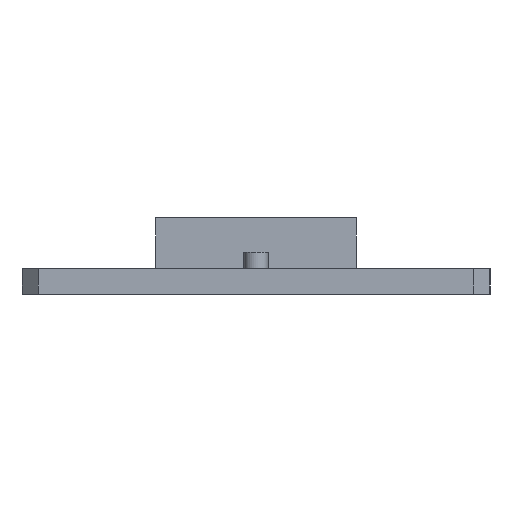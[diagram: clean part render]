
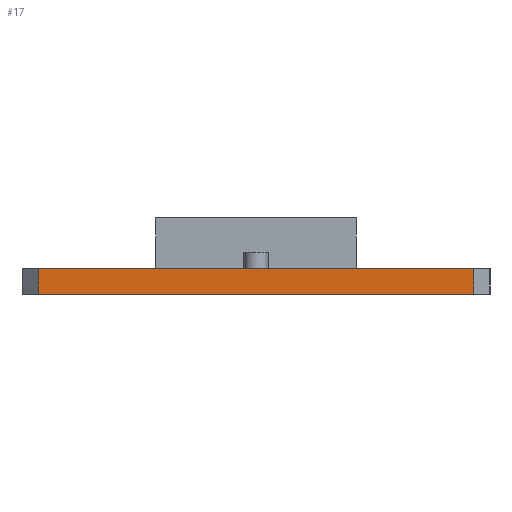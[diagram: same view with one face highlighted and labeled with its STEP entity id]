
A CAD part, left-side view. The second image highlights one B-rep face of the part: STEP entity #17.
In plain terms, the highlighted planar face has unit normal (-1, 0, 0).
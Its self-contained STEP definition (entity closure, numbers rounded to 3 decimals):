
#17 = ADVANCED_FACE('',(#18),#32,.F.);
#18 = FACE_BOUND('',#19,.F.);
#19 = EDGE_LOOP('',(#20,#55,#83,#111));
#20 = ORIENTED_EDGE('',*,*,#21,.F.);
#21 = EDGE_CURVE('',#22,#24,#26,.T.);
#22 = VERTEX_POINT('',#23);
#23 = CARTESIAN_POINT('',(-31.925,-13.525,1.6));
#24 = VERTEX_POINT('',#25);
#25 = CARTESIAN_POINT('',(-31.925,13.525,1.6));
#26 = SURFACE_CURVE('',#27,(#31,#43),.PCURVE_S1.);
#27 = LINE('',#28,#29);
#28 = CARTESIAN_POINT('',(-31.925,-14.525,1.6));
#29 = VECTOR('',#30,1.);
#30 = DIRECTION('',(-0.,1.,0.));
#31 = PCURVE('',#32,#37);
#32 = PLANE('',#33);
#33 = AXIS2_PLACEMENT_3D('',#34,#35,#36);
#34 = CARTESIAN_POINT('',(-31.925,-14.525,0.));
#35 = DIRECTION('',(1.,0.,-0.));
#36 = DIRECTION('',(0.,0.,1.));
#37 = DEFINITIONAL_REPRESENTATION('',(#38),#42);
#38 = LINE('',#39,#40);
#39 = CARTESIAN_POINT('',(1.6,0.));
#40 = VECTOR('',#41,1.);
#41 = DIRECTION('',(0.,-1.));
#42 = ( GEOMETRIC_REPRESENTATION_CONTEXT(2) 
PARAMETRIC_REPRESENTATION_CONTEXT() REPRESENTATION_CONTEXT('2D SPACE',''
  ) );
#43 = PCURVE('',#44,#49);
#44 = PLANE('',#45);
#45 = AXIS2_PLACEMENT_3D('',#46,#47,#48);
#46 = CARTESIAN_POINT('',(-31.925,-14.525,1.6));
#47 = DIRECTION('',(0.,0.,1.));
#48 = DIRECTION('',(1.,0.,-0.));
#49 = DEFINITIONAL_REPRESENTATION('',(#50),#54);
#50 = LINE('',#51,#52);
#51 = CARTESIAN_POINT('',(0.,0.));
#52 = VECTOR('',#53,1.);
#53 = DIRECTION('',(0.,1.));
#54 = ( GEOMETRIC_REPRESENTATION_CONTEXT(2) 
PARAMETRIC_REPRESENTATION_CONTEXT() REPRESENTATION_CONTEXT('2D SPACE',''
  ) );
#55 = ORIENTED_EDGE('',*,*,#56,.F.);
#56 = EDGE_CURVE('',#57,#22,#59,.T.);
#57 = VERTEX_POINT('',#58);
#58 = CARTESIAN_POINT('',(-31.925,-13.525,0.));
#59 = SURFACE_CURVE('',#60,(#64,#71),.PCURVE_S1.);
#60 = LINE('',#61,#62);
#61 = CARTESIAN_POINT('',(-31.925,-13.525,0.));
#62 = VECTOR('',#63,1.);
#63 = DIRECTION('',(0.,0.,1.));
#64 = PCURVE('',#32,#65);
#65 = DEFINITIONAL_REPRESENTATION('',(#66),#70);
#66 = LINE('',#67,#68);
#67 = CARTESIAN_POINT('',(0.,-1.));
#68 = VECTOR('',#69,1.);
#69 = DIRECTION('',(1.,0.));
#70 = ( GEOMETRIC_REPRESENTATION_CONTEXT(2) 
PARAMETRIC_REPRESENTATION_CONTEXT() REPRESENTATION_CONTEXT('2D SPACE',''
  ) );
#71 = PCURVE('',#72,#77);
#72 = PLANE('',#73);
#73 = AXIS2_PLACEMENT_3D('',#74,#75,#76);
#74 = CARTESIAN_POINT('',(-31.425,-14.025,0.));
#75 = DIRECTION('',(-0.707,-0.707,0.));
#76 = DIRECTION('',(-0.,-0.,-1.));
#77 = DEFINITIONAL_REPRESENTATION('',(#78),#82);
#78 = LINE('',#79,#80);
#79 = CARTESIAN_POINT('',(-0.,-0.707));
#80 = VECTOR('',#81,1.);
#81 = DIRECTION('',(-1.,0.));
#82 = ( GEOMETRIC_REPRESENTATION_CONTEXT(2) 
PARAMETRIC_REPRESENTATION_CONTEXT() REPRESENTATION_CONTEXT('2D SPACE',''
  ) );
#83 = ORIENTED_EDGE('',*,*,#84,.T.);
#84 = EDGE_CURVE('',#57,#85,#87,.T.);
#85 = VERTEX_POINT('',#86);
#86 = CARTESIAN_POINT('',(-31.925,13.525,0.));
#87 = SURFACE_CURVE('',#88,(#92,#99),.PCURVE_S1.);
#88 = LINE('',#89,#90);
#89 = CARTESIAN_POINT('',(-31.925,-14.525,0.));
#90 = VECTOR('',#91,1.);
#91 = DIRECTION('',(-0.,1.,0.));
#92 = PCURVE('',#32,#93);
#93 = DEFINITIONAL_REPRESENTATION('',(#94),#98);
#94 = LINE('',#95,#96);
#95 = CARTESIAN_POINT('',(0.,0.));
#96 = VECTOR('',#97,1.);
#97 = DIRECTION('',(0.,-1.));
#98 = ( GEOMETRIC_REPRESENTATION_CONTEXT(2) 
PARAMETRIC_REPRESENTATION_CONTEXT() REPRESENTATION_CONTEXT('2D SPACE',''
  ) );
#99 = PCURVE('',#100,#105);
#100 = PLANE('',#101);
#101 = AXIS2_PLACEMENT_3D('',#102,#103,#104);
#102 = CARTESIAN_POINT('',(-31.925,-14.525,0.));
#103 = DIRECTION('',(0.,0.,1.));
#104 = DIRECTION('',(1.,0.,-0.));
#105 = DEFINITIONAL_REPRESENTATION('',(#106),#110);
#106 = LINE('',#107,#108);
#107 = CARTESIAN_POINT('',(0.,0.));
#108 = VECTOR('',#109,1.);
#109 = DIRECTION('',(0.,1.));
#110 = ( GEOMETRIC_REPRESENTATION_CONTEXT(2) 
PARAMETRIC_REPRESENTATION_CONTEXT() REPRESENTATION_CONTEXT('2D SPACE',''
  ) );
#111 = ORIENTED_EDGE('',*,*,#112,.T.);
#112 = EDGE_CURVE('',#85,#24,#113,.T.);
#113 = SURFACE_CURVE('',#114,(#118,#125),.PCURVE_S1.);
#114 = LINE('',#115,#116);
#115 = CARTESIAN_POINT('',(-31.925,13.525,0.));
#116 = VECTOR('',#117,1.);
#117 = DIRECTION('',(0.,0.,1.));
#118 = PCURVE('',#32,#119);
#119 = DEFINITIONAL_REPRESENTATION('',(#120),#124);
#120 = LINE('',#121,#122);
#121 = CARTESIAN_POINT('',(0.,-28.05));
#122 = VECTOR('',#123,1.);
#123 = DIRECTION('',(1.,0.));
#124 = ( GEOMETRIC_REPRESENTATION_CONTEXT(2) 
PARAMETRIC_REPRESENTATION_CONTEXT() REPRESENTATION_CONTEXT('2D SPACE',''
  ) );
#125 = PCURVE('',#126,#131);
#126 = PLANE('',#127);
#127 = AXIS2_PLACEMENT_3D('',#128,#129,#130);
#128 = CARTESIAN_POINT('',(-31.425,14.025,0.));
#129 = DIRECTION('',(0.707,-0.707,0.));
#130 = DIRECTION('',(-0.,-0.,-1.));
#131 = DEFINITIONAL_REPRESENTATION('',(#132),#136);
#132 = LINE('',#133,#134);
#133 = CARTESIAN_POINT('',(-0.,-0.707));
#134 = VECTOR('',#135,1.);
#135 = DIRECTION('',(-1.,0.));
#136 = ( GEOMETRIC_REPRESENTATION_CONTEXT(2) 
PARAMETRIC_REPRESENTATION_CONTEXT() REPRESENTATION_CONTEXT('2D SPACE',''
  ) );
